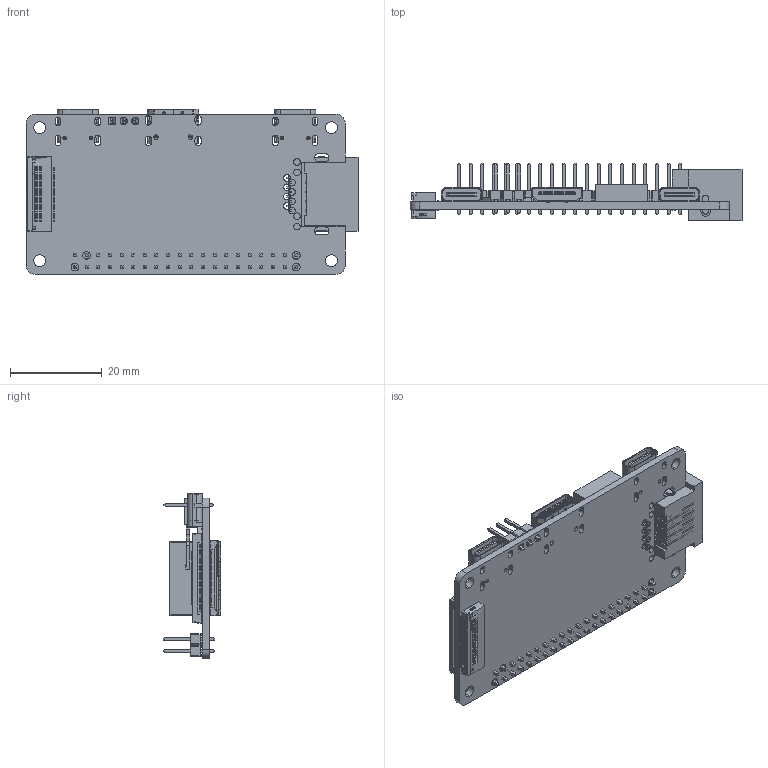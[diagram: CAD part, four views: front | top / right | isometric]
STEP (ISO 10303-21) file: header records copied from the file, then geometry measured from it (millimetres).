
FILE_DESCRIPTION (( 'STEP AP214' ), '1' );
FILE_NAME ('LubanCat Zero N PCB 3D恅璃 .STEP', '2022-12-19T07:54:35', ( '' ), ( '' ), 'SwSTEP 2.0', 'SolidWorks 2021', '' );
FILE_SCHEMA (( 'AUTOMOTIVE_DESIGN' ));
Length unit declared in the file: millimetre
Products named in the file (15): 酗竘褐 錨璃; x05a20l30t; User Library-HEADER 20X2; LubanCat Zero N PCB 錨璃; RK3566郋え 詢僅0.9 錨璃; 傻竘褐 1.1 錨璃; 000a71-05h4-111n1; LubanCat Zero N PCB 3D恅璃 ; RJ45厙諳 蚾饜极; SD縐; TF 傻极湍潰聆PIN 3.75H 錨璃; TYPE-C 譫釱 16P 泂え 錨璃; TSW-109-07-G-S 3pin; x05a20l24t; 沉板RJ45网口主体 零件
Assembly tree (15 placements, depth 3):
  LubanCat Zero N PCB 3D恅璃 
    LubanCat Zero N PCB 錨璃
    RJ45厙諳 蚾饜极
      沉板RJ45网口主体 零件
      傻竘褐 1.1 錨璃
      酗竘褐 錨璃
    TYPE-C 譫釱 16P 泂え 錨璃  x2
    000a71-05h4-111n1
    TF 傻极湍潰聆PIN 3.75H 錨璃
    SD縐
    TSW-109-07-G-S 3pin
    User Library-HEADER 20X2
    x05a20l24t
    x05a20l30t
    RK3566郋え 詢僅0.9 錨璃
Bounding box: 72.4 x 12.6 x 36 mm (x, y, z)
Volume: 6882.1 mm3; surface area: 13007.5 mm2
Topology: 23 solids, 23 shells, 4138 faces, 11534 edges, 7449 vertices
Faces by surface type: plane 3454, cylinder 549, bspline 115, cone 16, torus 4
Entity records: 149308 total; most frequent: CARTESIAN_POINT 30141, ORIENTED_EDGE 22320, DIRECTION 19774, EDGE_CURVE 11160, VECTOR 9796, LINE 9796, VERTEX_POINT 7202, AXIS2_PLACEMENT_3D 4989
